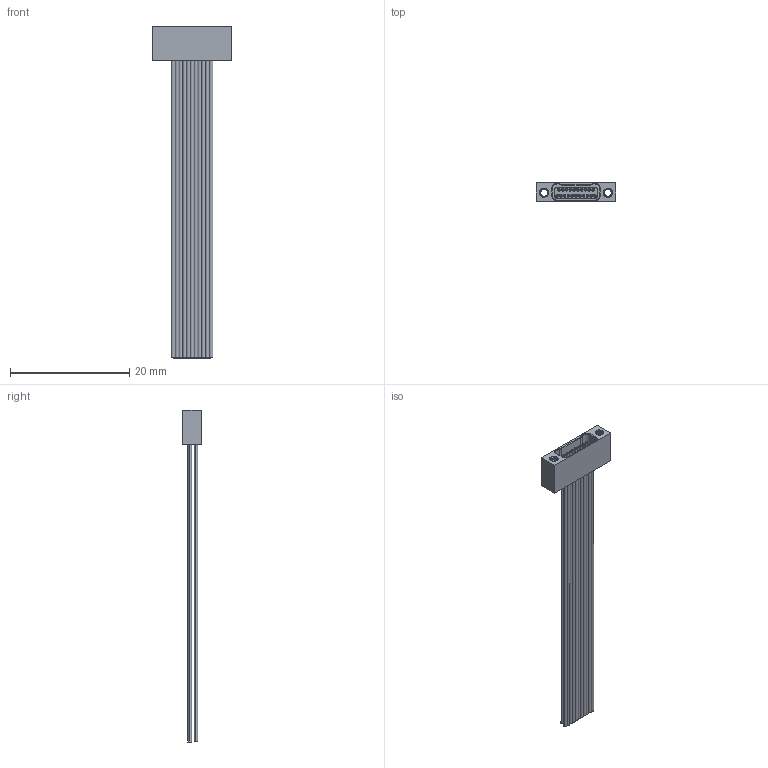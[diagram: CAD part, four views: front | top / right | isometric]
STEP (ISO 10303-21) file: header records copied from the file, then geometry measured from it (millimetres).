
FILE_DESCRIPTION (( 'STEP AP214' ), '1' );
FILE_NAME ('A29000-021 REV G.STEP', '2015-11-04T19:58:29', ( '' ), ( '' ), 'SwSTEP 2.0', 'SolidWorks 2015', '' );
FILE_SCHEMA (( 'AUTOMOTIVE_DESIGN' ));
Length unit declared in the file: inch
Products named in the file (1): A29000-021
Bounding box: 13.34 x 3.19 x 55.66 mm (x, y, z)
Volume: 479.5 mm3; surface area: 2629.2 mm2
Topology: 1 solids, 22 shells, 693 faces, 1577 edges, 1004 vertices
Faces by surface type: cylinder 296, plane 245, torus 84, bspline 54, cone 14
Entity records: 24995 total; most frequent: CARTESIAN_POINT 8869, DIRECTION 3359, ORIENTED_EDGE 3150, EDGE_CURVE 1575, AXIS2_PLACEMENT_3D 1324, VERTEX_POINT 1004, EDGE_LOOP 817, LINE 711
